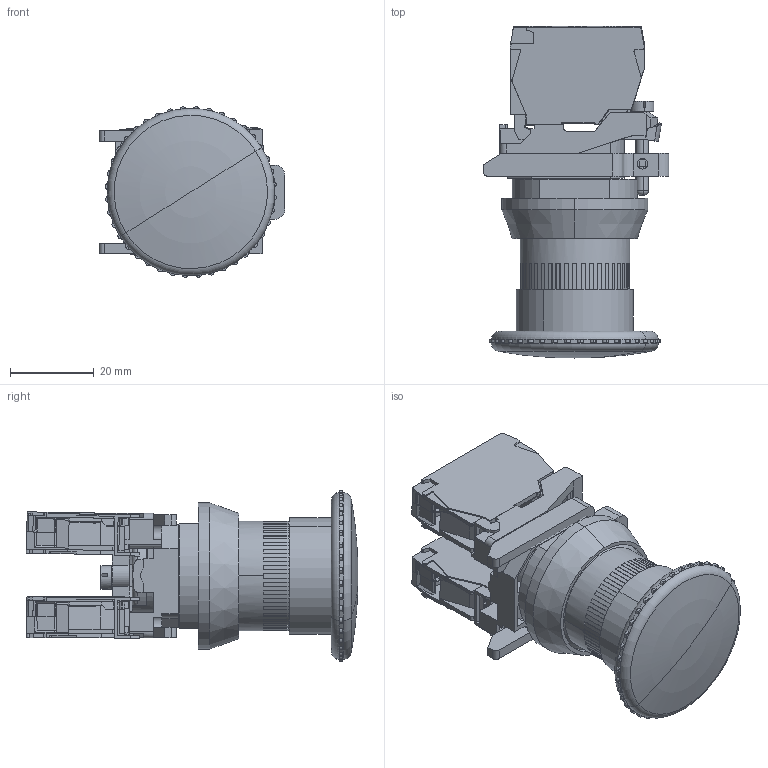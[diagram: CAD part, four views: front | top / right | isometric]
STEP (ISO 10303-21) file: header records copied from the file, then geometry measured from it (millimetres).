
FILE_DESCRIPTION (( 'STEP AP203' ), '1' );
FILE_NAME ('岒131嬣 岒141嬣 岒211嬣.STEP', '2021-12-08T06:41:03', ( '' ), ( '' ), 'SwSTEP 2.0', 'SolidWorks 2019', '' );
FILE_SCHEMA (( 'CONFIG_CONTROL_DESIGN' ));
Length unit declared in the file: millimetre
Products named in the file (15): ﾊﾌﾅ56ﾔﾑ.STEP; 盷謥羻僾鴀 岒171; ______ ______ ____.STEP; _____________ _________ _______.STEP; _____ ______ ______ _________^___56__-1.STEP; ______________ ______.STEP; ____ (____).STEP; _____ ______ ______ _________^___56__.STEP; ______ __.STEP; ____1.STEP; _____ ___.STEP; ______ __-0.STEP; ___ ____.STEP; 岒131嬣 岒141嬣 岒211嬣; _____-2.STEP
Assembly tree (17 placements, depth 4):
  岒131嬣 岒141嬣 岒211嬣
    ﾊﾌﾅ56ﾔﾑ.STEP
      _____ ______ ______ _________^___56__.STEP
        ______ __.STEP
        ______ __-0.STEP
        _____-2.STEP
      _____ ______ ______ _________^___56__-1.STEP
        ______ __.STEP
        ______ __-0.STEP
        _____-2.STEP
      _____________ _________ _______.STEP
      _____ ___.STEP
      ___ ____.STEP
      ____1.STEP
      ______ ______ ____.STEP
      ____ (____).STEP
      ______________ ______.STEP
    盷謥羻僾鴀 岒171
Bounding box: 44.5 x 79.46 x 40.92 mm (x, y, z)
Volume: 30119.6 mm3; surface area: 38830.6 mm2
Topology: 16 solids, 16 shells, 3604 faces, 9880 edges, 6443 vertices
Faces by surface type: plane 2070, cylinder 623, bspline 570, cone 226, torus 109, sphere 6
Entity records: 79246 total; most frequent: CARTESIAN_POINT 22174, ORIENTED_EDGE 12426, DIRECTION 10408, EDGE_CURVE 6213, VERTEX_POINT 4049, LINE 3910, VECTOR 3910, AXIS2_PLACEMENT_3D 3249
